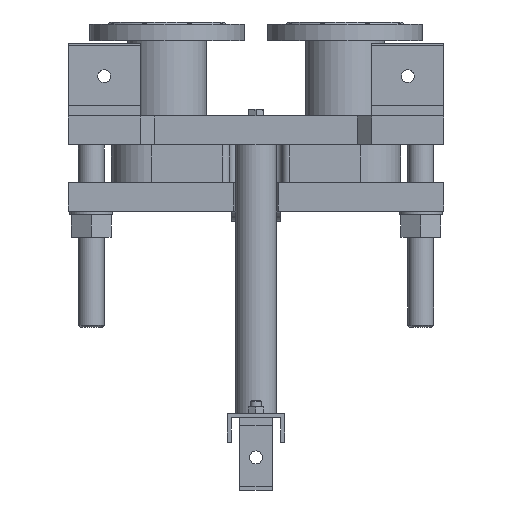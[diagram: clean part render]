
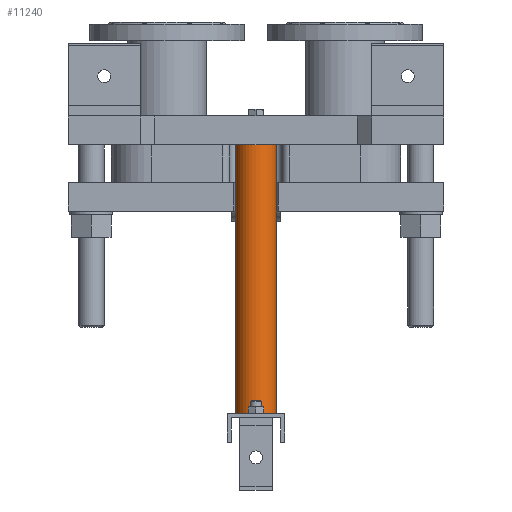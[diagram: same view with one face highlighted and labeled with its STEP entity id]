
A CAD part, front view. The second image highlights one B-rep face of the part: STEP entity #11240.
In plain terms, the highlighted cylindrical face has radius 28.5 mm (diameter 57 mm), a full revolution.
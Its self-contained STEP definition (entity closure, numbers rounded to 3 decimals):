
#781=LINE('',#22043,#1754);
#1754=VECTOR('',#14569,28.5);
#2333=CYLINDRICAL_SURFACE('',#12263,28.5);
#2995=FACE_OUTER_BOUND('',#3777,.T.);
#3777=EDGE_LOOP('',(#9013,#9014,#9015,#9016));
#4462=CIRCLE('',#12264,28.5);
#4463=CIRCLE('',#12265,28.5);
#5286=VERTEX_POINT('',#22040);
#5287=VERTEX_POINT('',#22042);
#6596=EDGE_CURVE('',#5286,#5286,#4462,.T.);
#6597=EDGE_CURVE('',#5286,#5287,#781,.T.);
#6598=EDGE_CURVE('',#5287,#5287,#4463,.T.);
#9013=ORIENTED_EDGE('',*,*,#6596,.F.);
#9014=ORIENTED_EDGE('',*,*,#6597,.T.);
#9015=ORIENTED_EDGE('',*,*,#6598,.T.);
#9016=ORIENTED_EDGE('',*,*,#6597,.F.);
#11240=ADVANCED_FACE('',(#2995),#2333,.T.);
#12263=AXIS2_PLACEMENT_3D('',#22039,#14565,#14566);
#12264=AXIS2_PLACEMENT_3D('',#22041,#14567,#14568);
#12265=AXIS2_PLACEMENT_3D('',#22044,#14570,#14571);
#14565=DIRECTION('center_axis',(0.,0.,
-1.));
#14566=DIRECTION('ref_axis',(-1.,0.,0.));
#14567=DIRECTION('center_axis',(0.,0.,
-1.));
#14568=DIRECTION('ref_axis',(-1.,0.,0.));
#14569=DIRECTION('',(0.,0.,1.));
#14570=DIRECTION('center_axis',(0.,0.,
-1.));
#14571=DIRECTION('ref_axis',(-1.,0.,0.));
#22039=CARTESIAN_POINT('Origin',(0.,215.,0.));
#22040=CARTESIAN_POINT('',(28.5,215.,-371.5));
#22041=CARTESIAN_POINT('Origin',(0.,215.,-371.5));
#22042=CARTESIAN_POINT('',(28.5,215.,0.));
#22043=CARTESIAN_POINT('',(28.5,215.,0.));
#22044=CARTESIAN_POINT('Origin',(0.,215.,0.));
